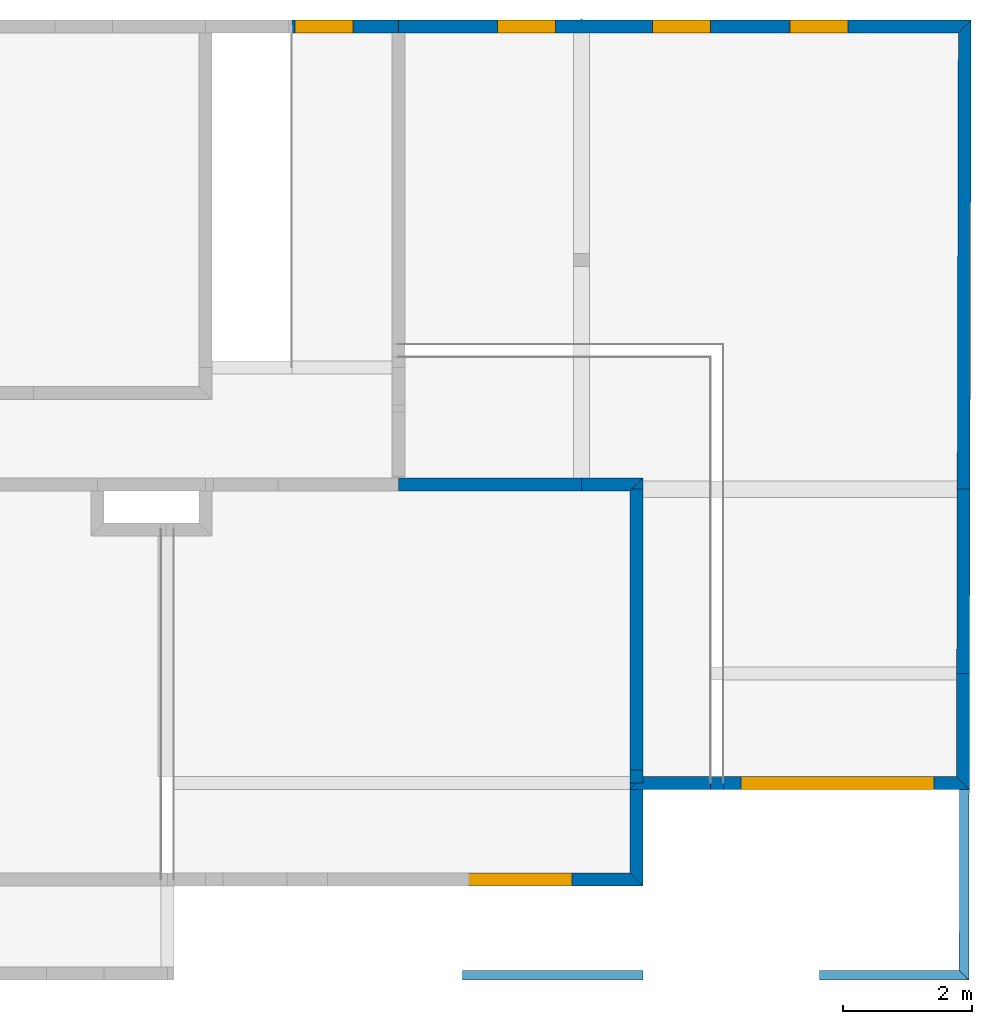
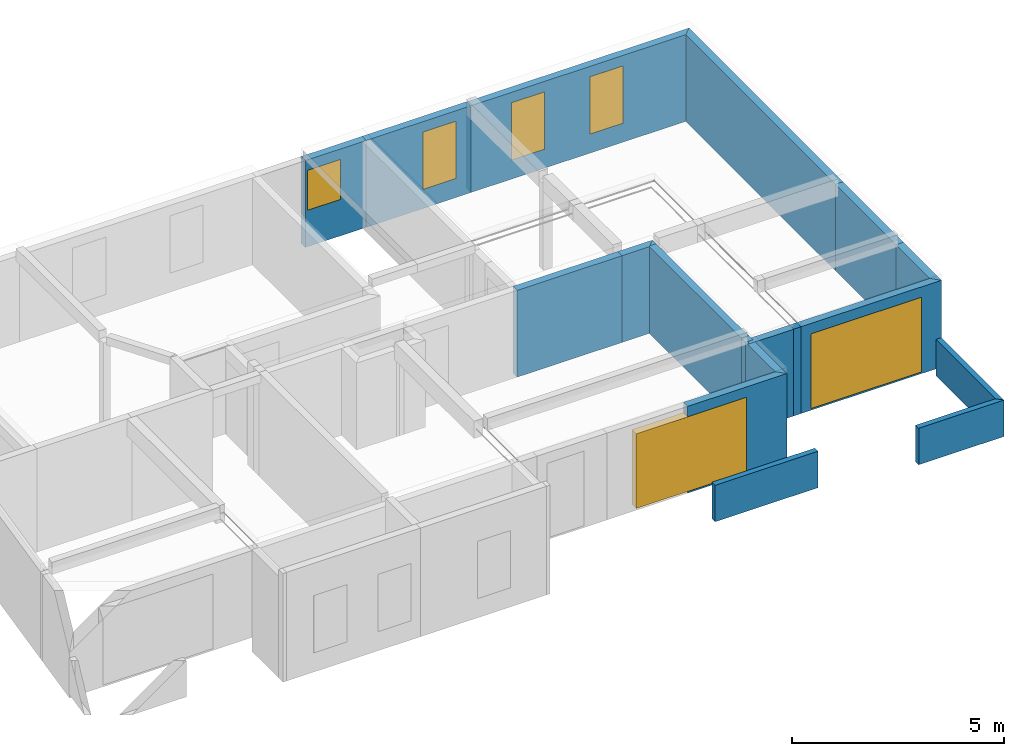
# One storey, part 7 of 8: 20 walls, 6 windows, 6 openings.
"""IFC2X3 building model written with IfcOpenShell, lengths in metres."""

from ifc_helpers import new_model, si_unit, direction, frame, origin_with_axes, origin_2d, place, context, subcontext, project, spatial, polyline, rectangle, outline, extrude, material, layer, layer_set, layer_usage, type_object, element, fill, save


model = new_model("IFC2X3")

# Units and contexts
model_context = context("Model", 3, precision=0.0001, world=origin_with_axes(), true_north=direction((0.0, 1.0)))
plan_context = context("Plan", 2, precision=0.0001, world=origin_with_axes(), true_north=direction((0.0, 1.0)))
body_context = subcontext(model_context, "Body", "Model", "MODEL_VIEW")
ifc_project = project(units=[si_unit("MASSUNIT", "GRAM", prefix="KILO"), si_unit("AREAUNIT", "SQUARE_METRE"), si_unit("LENGTHUNIT", "METRE"), si_unit("VOLUMEUNIT", "CUBIC_METRE")], contexts=[plan_context, model_context])

# Site, building, storey
site_placement = place(None, origin_with_axes())
site = spatial("IfcSite", under=ifc_project, at=site_placement, Name="$", CompositionType="ELEMENT")
building_placement = place(site_placement, origin_with_axes())
building = spatial("IfcBuilding", under=site, at=building_placement, Name="Classeur ENS Ensemble", CompositionType="ELEMENT")
storey_placement = place(building_placement, frame((-20.30778888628, -1.812671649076, 3.3), z_axis=(0.0, 0.0, 1.0), x_axis=(1.0, 0.0, 0.0)))
storey = spatial("IfcBuildingStorey", under=building, at=storey_placement, Name="002 R+1", CompositionType="ELEMENT", Elevation=3.3)

# Wall, opening, window
ifc_material_1 = material(Name="mur BBM 20 cm")
ifc_layer_1 = layer(ifc_material_1, 0.2000000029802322)
ifc_layer_set_1 = layer_set([ifc_layer_1], Name="mur BBM 20 cm+")
ifc_layer_usage_1 = layer_usage(ifc_layer_set_1, "AXIS2", "POSITIVE", -0.1000000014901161)
wall_type = type_object("IfcWallType", PredefinedType="STANDARD")
wall_1_placement = place(storey_placement, frame((34.38339579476, 1.692674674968, 0.0), z_axis=(0.0, 0.0, 1.0), x_axis=(1.0, 0.0, 0.0)))
wall_1 = element("IfcWall", 1, at=wall_1_placement, inside=storey, type_object=wall_type, material=ifc_layer_usage_1, Name="mur BBM 20 cm", context=body_context, shape_type="SweptSolid", held_by="IfcProductRepresentation", body=[
    extrude(outline(polyline([(0.0, 0.1000000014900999), (0.0, 0.1000000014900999), (0.0, 0.1000000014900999), (2.849810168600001, 0.1000000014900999), (2.849810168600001, 0.1000000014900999), (2.849810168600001, 0.1000000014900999), (2.849810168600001, -0.1000000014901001), (2.849810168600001, -0.1000000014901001), (2.849810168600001, -0.1000000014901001), (0.1000000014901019, -0.1000000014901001), (0.1000000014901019, -0.1000000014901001), (0.0, -0.1000000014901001), (0.0, 0.1000000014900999)])), origin_with_axes(), (0.0, 0.0, 1.0), 2.5),
])
opening_1_placement = place(wall_1_placement, frame((1.990655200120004, 0.1000000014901, 0.5500000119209), z_axis=(0.0, 0.0, 1.0), x_axis=(1.0, 0.0, 0.0)))
opening_1 = element("IfcOpeningElement", 2, at=opening_1_placement, cuts=wall_1, Name="BL 90 x 165", context=body_context, shape_type="SweptSolid", held_by="IfcProductRepresentation", body=[
    extrude(rectangle(XDim=0.8999999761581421, YDim=1.649999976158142, at=origin_2d()), frame((0.0, 0.0, 0.824999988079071), z_axis=(0.0, -1.0, 0.0), x_axis=(1.0, 0.0, 0.0)), (0.0, 0.0, 1.0), 0.2000000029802),
])
window_1_placement = place(opening_1_placement, origin_with_axes())
window_1 = element("IfcWindow", 3, at=window_1_placement, inside=storey, Name="BL 90 x 165", OverallHeight=1.649999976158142, OverallWidth=0.8999999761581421, context=body_context, shape_type="SweptSolid", held_by="IfcProductRepresentation", body=[
    extrude(rectangle(XDim=0.8999999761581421, YDim=1.649999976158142, at=origin_2d()), frame((0.0, 0.0, 0.824999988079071), z_axis=(0.0, -1.0, 0.0), x_axis=(1.0, 0.0, 0.0)), (0.0, 0.0, 1.0), 0.2000000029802),
])
fill(opening_1, window_1)

# Walls
ifc_material_2 = material(Name="mur BBM 20 cm")
ifc_layer_2 = layer(ifc_material_2, 0.2000000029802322)
ifc_layer_set_2 = layer_set([ifc_layer_2], Name="mur BBM 20 cm+")
ifc_layer_usage_2 = layer_usage(ifc_layer_set_2, "AXIS2", "POSITIVE", -0.1000000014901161)
wall_2_placement = place(storey_placement, frame((38.08339579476, -11.56732532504, 0.0), z_axis=(0.0, 0.0, 1.0), x_axis=(0.0, 1.0, 0.0)))
element("IfcWall", 4, at=wall_2_placement, inside=storey, type_object=wall_type, material=ifc_layer_usage_2, Name="mur BBM 20 cm", context=body_context, shape_type="SweptSolid", held_by="IfcProductRepresentation", body=[
    extrude(outline(polyline([(0.1000000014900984, 0.1000000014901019), (0.1000000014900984, 0.1000000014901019), (0.1000000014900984, 0.1000000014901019), (1.500000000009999, 0.1000000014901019), (1.500000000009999, 0.1000000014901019), (1.500000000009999, 0.1000000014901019), (1.500000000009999, -0.1000000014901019), (1.399999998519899, -0.1000000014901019), (1.399999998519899, -0.1000000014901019), (-0.1000000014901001, -0.1000000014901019), (-0.1000000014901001, -0.1000000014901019), (-0.1000000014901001, -0.1000000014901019), (0.1000000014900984, 0.1000000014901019)])), origin_with_axes(), (0.0, 0.0, 1.0), 2.5),
])
ifc_material_3 = material(Name="mur BBM 20 cm")
ifc_layer_3 = layer(ifc_material_3, 0.2000000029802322)
ifc_layer_set_3 = layer_set([ifc_layer_3], Name="mur BBM 20 cm+")
ifc_layer_usage_3 = layer_usage(ifc_layer_set_3, "AXIS2", "POSITIVE", -0.1000000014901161)
wall_3_placement = place(storey_placement, frame((43.15894580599, -10.06732532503, 0.0), z_axis=(0.0, 0.0, 1.0), x_axis=(0.002544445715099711, 0.999996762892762, 0.0)))
element("IfcWall", 5, at=wall_3_placement, inside=storey, type_object=wall_type, material=ifc_layer_usage_3, Name="mur BBM 20 cm", context=body_context, shape_type="SweptSolid", held_by="IfcProductRepresentation", body=[
    extrude(outline(polyline([(0.09974587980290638, 0.100000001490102), (0.09974587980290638, 0.100000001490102), (0.09974587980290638, 0.100000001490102), (1.700048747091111, 0.1000000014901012), (1.700048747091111, 0.1000000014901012), (1.700048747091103, 0.1000000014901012), (1.700048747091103, -0.1000000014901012), (1.700048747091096, -0.1000000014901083), (1.700048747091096, -0.1000000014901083), (-0.09974587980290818, -0.1000000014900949), (-0.09974587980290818, -0.1000000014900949), (-0.0997458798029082, -0.1000000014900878), (0.09974587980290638, 0.100000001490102)])), origin_with_axes(), (0.0, 0.0, 1.0), 2.5),
])
ifc_material_4 = material(Name="voile BA 20 cm")
ifc_layer_4 = layer(ifc_material_4, 0.2000000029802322)
ifc_layer_set_4 = layer_set([ifc_layer_4], Name="voile BA 20 cm+")
ifc_layer_usage_4 = layer_usage(ifc_layer_set_4, "AXIS2", "POSITIVE", -0.1000000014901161)
wall_4_placement = place(storey_placement, frame((38.08339579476, -9.867325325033, 0.0), z_axis=(0.0, 0.0, 1.0), x_axis=(0.0, 1.0, 0.0)))
element("IfcWall", 6, at=wall_4_placement, inside=storey, type_object=wall_type, material=ifc_layer_usage_4, Name="voile BA 20 cm", context=body_context, shape_type="SweptSolid", held_by="IfcProductRepresentation", body=[
    extrude(outline(polyline([(0.0, 0.1000000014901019), (0.0, 0.1000000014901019), (0.0, 0.1000000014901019), (4.365000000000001, 0.1000000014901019), (4.365000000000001, 0.1000000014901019), (4.365000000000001, 0.1000000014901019), (4.365000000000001, -0.1000000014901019), (4.365000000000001, -0.1000000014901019), (4.365000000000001, -0.1000000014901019), (0.0, -0.1000000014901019), (0.0, -0.1000000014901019), (0.0, -0.1000000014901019), (0.0, 0.1000000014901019)])), origin_with_axes(), (0.0, 0.0, 1.0), 2.5),
])

# Wall, openings, windows
ifc_material_5 = material(Name="mur BBM 20 cm")
ifc_layer_5 = layer(ifc_material_5, 0.2000000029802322)
ifc_layer_set_5 = layer_set([ifc_layer_5], Name="mur BBM 20 cm+")
ifc_layer_usage_5 = layer_usage(ifc_layer_set_5, "AXIS2", "POSITIVE", -0.1000000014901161)
wall_5_placement = place(storey_placement, frame((37.23339579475, 1.692674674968, 0.0), z_axis=(0.0, 0.0, 1.0), x_axis=(1.0, -1.679277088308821e-13, 0.0)))
wall_5 = element("IfcWall", 7, at=wall_5_placement, inside=storey, type_object=wall_type, material=ifc_layer_usage_5, Name="mur BBM 20 cm", context=body_context, shape_type="SweptSolid", held_by="IfcProductRepresentation", body=[
    extrude(outline(polyline([(-2.581916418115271e-15, 0.1000000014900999), (-1.679277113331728e-14, 0.1000000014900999), (-1.679277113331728e-14, 0.1000000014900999), (6.055727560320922, 0.1000000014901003), (6.055727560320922, 0.1000000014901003), (6.055727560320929, 0.1000000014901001), (5.855218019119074, -0.1000000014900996), (5.855218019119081, -0.1000000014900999), (5.855218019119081, -0.1000000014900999), (1.679277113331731e-14, -0.1000000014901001), (1.679277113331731e-14, -0.1000000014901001), (2.581916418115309e-15, -0.1000000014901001), (-2.581916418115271e-15, 0.1000000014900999)])), origin_with_axes(), (0.0, 0.0, 1.0), 2.5),
])
opening_2_placement = place(wall_5_placement, frame((1.549556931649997, 0.1000000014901, 0.5500000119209), z_axis=(0.0, 0.0, 1.0), x_axis=(1.0, 0.0, 0.0)))
opening_2 = element("IfcOpeningElement", 8, at=opening_2_placement, cuts=wall_5, Name="BL 90 x 165", context=body_context, shape_type="SweptSolid", held_by="IfcProductRepresentation", body=[
    extrude(rectangle(XDim=0.8999999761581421, YDim=1.649999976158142, at=origin_2d()), frame((0.0, 0.0, 0.824999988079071), z_axis=(0.0, -1.0, 0.0), x_axis=(1.0, 0.0, 0.0)), (0.0, 0.0, 1.0), 0.2000000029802),
])
opening_3_placement = place(wall_5_placement, frame((3.690218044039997, 0.1000000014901, 0.5500000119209), z_axis=(0.0, 0.0, 1.0), x_axis=(1.0, 0.0, 0.0)))
opening_3 = element("IfcOpeningElement", 9, at=opening_3_placement, cuts=wall_5, Name="BL 90 x 165", context=body_context, shape_type="SweptSolid", held_by="IfcProductRepresentation", body=[
    extrude(rectangle(XDim=0.8999999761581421, YDim=1.649999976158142, at=origin_2d()), frame((0.0, 0.0, 0.824999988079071), z_axis=(0.0, -1.0, 0.0), x_axis=(1.0, 0.0, 0.0)), (0.0, 0.0, 1.0), 0.2000000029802),
])
window_2_placement = place(opening_2_placement, origin_with_axes())
window_2 = element("IfcWindow", 10, at=window_2_placement, inside=storey, Name="BL 90 x 165", OverallHeight=1.649999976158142, OverallWidth=0.8999999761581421, context=body_context, shape_type="SweptSolid", held_by="IfcProductRepresentation", body=[
    extrude(rectangle(XDim=0.8999999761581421, YDim=1.649999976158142, at=origin_2d()), frame((0.0, 0.0, 0.824999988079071), z_axis=(0.0, -1.0, 0.0), x_axis=(1.0, 0.0, 0.0)), (0.0, 0.0, 1.0), 0.2000000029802),
])
fill(opening_2, window_2)
window_3_placement = place(opening_3_placement, origin_with_axes())
window_3 = element("IfcWindow", 11, at=window_3_placement, inside=storey, Name="BL 90 x 165", OverallHeight=1.649999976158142, OverallWidth=0.8999999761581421, context=body_context, shape_type="SweptSolid", held_by="IfcProductRepresentation", body=[
    extrude(rectangle(XDim=0.8999999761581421, YDim=1.649999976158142, at=origin_2d()), frame((0.0, 0.0, 0.824999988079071), z_axis=(0.0, -1.0, 0.0), x_axis=(1.0, 0.0, 0.0)), (0.0, 0.0, 1.0), 0.2000000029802),
])
fill(opening_3, window_3)

# Walls
ifc_material_6 = material(Name="mur BBM 20 cm")
ifc_layer_6 = layer(ifc_material_6, 0.2000000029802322)
ifc_layer_set_6 = layer_set([ifc_layer_6], Name="mur BBM 20 cm+")
ifc_layer_usage_6 = layer_usage(ifc_layer_set_6, "AXIS2", "POSITIVE", -0.1000000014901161)
wall_6_placement = place(storey_placement, frame((38.08339579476, -10.06732532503, 0.0), z_axis=(0.0, 0.0, 1.0), x_axis=(1.0, 0.0, 0.0)))
element("IfcWall", 12, at=wall_6_placement, inside=storey, type_object=wall_type, material=ifc_layer_usage_6, Name="mur BBM 20 cm", context=body_context, shape_type="SweptSolid", held_by="IfcProductRepresentation", body=[
    extrude(outline(polyline([(0.1000000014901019, 0.1000000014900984), (0.1000000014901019, 0.1000000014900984), (0.1000000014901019, 0.1000000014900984), (1.153090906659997, 0.1000000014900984), (1.153090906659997, 0.1000000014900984), (1.153090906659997, 0.1000000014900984), (1.153090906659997, -0.1000000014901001), (1.153090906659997, -0.1000000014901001), (1.153090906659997, -0.1000000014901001), (0.1000000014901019, -0.1000000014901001), (0.1000000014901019, -0.1000000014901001), (-0.1000000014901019, -0.1000000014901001), (0.1000000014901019, 0.1000000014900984)])), origin_with_axes(), (0.0, 0.0, 1.0), 2.5),
])
ifc_material_7 = material(Name="mur BBM 20 cm")
ifc_layer_7 = layer(ifc_material_7, 0.2000000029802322)
ifc_layer_set_7 = layer_set([ifc_layer_7], Name="mur BBM 20 cm+")
ifc_layer_usage_7 = layer_usage(ifc_layer_set_7, "AXIS2", "POSITIVE", -0.1000000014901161)
wall_7_placement = place(storey_placement, frame((38.08339579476, -10.06732532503, 0.0), z_axis=(0.0, 0.0, 1.0), x_axis=(0.0, 1.0, 0.0)))
element("IfcWall", 13, at=wall_7_placement, inside=storey, type_object=wall_type, material=ifc_layer_usage_7, Name="mur BBM 20 cm", context=body_context, shape_type="SweptSolid", held_by="IfcProductRepresentation", body=[
    extrude(outline(polyline([(0.0, 0.1000000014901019), (0.0, 0.1000000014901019), (0.0, 0.1000000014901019), (0.199999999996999, 0.1000000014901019), (0.199999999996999, 0.1000000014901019), (0.199999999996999, 0.1000000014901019), (0.199999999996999, -0.1000000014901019), (0.199999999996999, -0.1000000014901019), (0.199999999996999, -0.1000000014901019), (0.1000000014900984, -0.1000000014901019), (0.1000000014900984, -0.1000000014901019), (0.0, -0.1000000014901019), (0.0, 0.1000000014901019)])), origin_with_axes(), (0.0, 0.0, 1.0), 2.5),
])
ifc_material_8 = material(Name="mur BBM 15 cm allégés")
ifc_layer_8 = layer(ifc_material_8, 0.1500000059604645)
ifc_layer_set_8 = layer_set([ifc_layer_8], Name="mur BBM 15 cm allégés+")
ifc_layer_usage_8 = layer_usage(ifc_layer_set_8, "AXIS2", "POSITIVE", -0.07500000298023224)
wall_8_placement = place(storey_placement, frame((35.38339579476, -13.05732532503, 0.1000000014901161), z_axis=(0.0, 0.0, 1.0), x_axis=(1.0, 0.0, 0.0)))
element("IfcWall", 14, at=wall_8_placement, inside=storey, type_object=wall_type, material=ifc_layer_usage_8, Name="mur BBM 15 cm allégés", context=body_context, shape_type="SweptSolid", held_by="IfcProductRepresentation", body=[
    extrude(outline(polyline([(0.0, 0.07500000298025), (0.0, 0.07500000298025), (0.0, 0.07500000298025), (2.800000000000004, 0.07500000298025), (2.800000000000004, 0.07500000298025), (2.800000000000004, 0.07500000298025), (2.800000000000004, -0.07500000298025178), (2.800000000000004, -0.07500000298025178), (2.800000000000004, -0.07500000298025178), (0.0, -0.07500000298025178), (0.0, -0.07500000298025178), (0.0, -0.07500000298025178), (0.0, 0.07500000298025)])), origin_with_axes(), (0.0, 0.0, 1.0), 1.049999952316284),
])
ifc_material_9 = material(Name="mur BBM 15 cm allégés")
ifc_layer_9 = layer(ifc_material_9, 0.1500000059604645)
ifc_layer_set_9 = layer_set([ifc_layer_9], Name="mur BBM 15 cm allégés+")
ifc_layer_usage_9 = layer_usage(ifc_layer_set_9, "AXIS2", "POSITIVE", -0.07500000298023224)
wall_9_placement = place(storey_placement, frame((40.92951868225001, -13.05732532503, -0.2000000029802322), z_axis=(0.0, 0.0, 1.0), x_axis=(1.0, 0.0, 0.0)))
element("IfcWall", 15, at=wall_9_placement, inside=storey, type_object=wall_type, material=ifc_layer_usage_9, Name="mur BBM 15 cm allégés", context=body_context, shape_type="SweptSolid", held_by="IfcProductRepresentation", body=[
    extrude(outline(polyline([(0.0, 0.07500000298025), (0.0, 0.07500000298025), (0.0, 0.07500000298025), (2.172065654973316, 0.07500000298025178), (2.172065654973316, 0.07500000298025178), (2.172065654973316, 0.07500000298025), (2.321685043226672, -0.07500000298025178), (2.321685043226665, -0.07500000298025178), (2.321685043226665, -0.07500000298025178), (0.0, -0.07500000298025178), (0.0, -0.07500000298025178), (0.0, -0.07500000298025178), (0.0, 0.07500000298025)])), origin_with_axes(), (0.0, 0.0, 1.0), 1.049999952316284),
])
ifc_material_10 = material(Name="mur BBM 15 cm allégés")
ifc_layer_10 = layer(ifc_material_10, 0.1500000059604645)
ifc_layer_set_10 = layer_set([ifc_layer_10], Name="mur BBM 15 cm allégés+")
ifc_layer_usage_10 = layer_usage(ifc_layer_set_10, "AXIS2", "POSITIVE", -0.07500000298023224)
wall_10_placement = place(storey_placement, frame((43.17639403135, -13.05732532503, -0.2000000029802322), z_axis=(0.0, 0.0, 1.0), x_axis=(0.002540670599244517, 0.9999967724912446, 0.0)))
element("IfcWall", 16, at=wall_10_placement, inside=storey, type_object=wall_type, material=ifc_layer_usage_10, Name="mur BBM 15 cm allégés", context=body_context, shape_type="SweptSolid", held_by="IfcProductRepresentation", body=[
    extrude(outline(polyline([(0.07480969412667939, 0.07500000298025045), (0.07480969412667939, 0.07500000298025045), (0.07480969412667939, 0.07500000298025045), (2.890009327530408, 0.07500000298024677), (2.890009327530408, 0.07500000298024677), (2.890009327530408, 0.07500000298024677), (2.890009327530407, -0.07500000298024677), (2.890009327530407, -0.07500000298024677), (2.890009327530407, -0.07500000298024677), (-0.07480969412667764, -0.07500000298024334), (-0.07480969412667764, -0.07500000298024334), (-0.07480969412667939, -0.07500000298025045), (0.07480969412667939, 0.07500000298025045)])), origin_with_axes(), (0.0, 0.0, 1.0), 1.049999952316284),
])

# Wall, opening, window
ifc_material_11 = material(Name="mur BBM 20 cm")
ifc_layer_11 = layer(ifc_material_11, 0.2000000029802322)
ifc_layer_set_11 = layer_set([ifc_layer_11], Name="mur BBM 20 cm+")
ifc_layer_usage_11 = layer_usage(ifc_layer_set_11, "AXIS2", "POSITIVE", -0.1000000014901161)
wall_11_placement = place(storey_placement, frame((35.48339579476, -11.56732532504, 0.0), z_axis=(0.0, 0.0, 1.0), x_axis=(1.0, 0.0, 0.0)))
wall_11 = element("IfcWall", 17, at=wall_11_placement, inside=storey, type_object=wall_type, material=ifc_layer_usage_11, Name="mur BBM 20 cm", context=body_context, shape_type="SweptSolid", held_by="IfcProductRepresentation", body=[
    extrude(outline(polyline([(0.0, 0.1000000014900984), (0.0, 0.1000000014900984), (0.0, 0.1000000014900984), (2.4999999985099, 0.1000000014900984), (2.4999999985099, 0.1000000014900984), (2.4999999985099, 0.1000000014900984), (2.700000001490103, -0.1000000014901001), (2.700000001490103, -0.1000000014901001), (2.700000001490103, -0.1000000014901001), (0.0, -0.1000000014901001), (0.0, -0.1000000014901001), (0.0, -0.1000000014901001), (0.0, 0.1000000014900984)])), origin_with_axes(), (0.0, 0.0, 1.0), 2.5),
])
opening_4_placement = place(wall_11_placement, frame((0.09746158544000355, 0.1000000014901, 0.05000000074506), z_axis=(0.0, 0.0, 1.0), x_axis=(1.0, 0.0, 0.0)))
opening_4 = element("IfcOpeningElement", 18, at=opening_4_placement, cuts=wall_11, Name="BL 300 x 215", context=body_context, shape_type="SweptSolid", held_by="IfcProductRepresentation", body=[
    extrude(rectangle(XDim=3.0, YDim=2.150000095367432, at=origin_2d()), frame((0.0, 0.0, 1.075000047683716), z_axis=(0.0, -1.0, 0.0), x_axis=(1.0, 0.0, 0.0)), (0.0, 0.0, 1.0), 0.2000000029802),
])
window_4_placement = place(opening_4_placement, origin_with_axes())
window_4 = element("IfcWindow", 19, at=window_4_placement, inside=storey, Name="BL 300 x 215", OverallHeight=2.150000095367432, OverallWidth=3.0, context=body_context, shape_type="SweptSolid", held_by="IfcProductRepresentation", body=[
    extrude(rectangle(XDim=3.0, YDim=2.150000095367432, at=origin_2d()), frame((0.0, 0.0, 1.075000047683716), z_axis=(0.0, -1.0, 0.0), x_axis=(1.0, 0.0, 0.0)), (0.0, 0.0, 1.0), 0.2000000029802),
])
fill(opening_4, window_4)

# Walls
ifc_material_12 = material(Name="voile BA 20 cm")
ifc_layer_12 = layer(ifc_material_12, 0.2000000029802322)
ifc_layer_set_12 = layer_set([ifc_layer_12], Name="voile BA 20 cm+")
ifc_layer_usage_12 = layer_usage(ifc_layer_set_12, "AXIS2", "POSITIVE", -0.1000000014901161)
wall_12_placement = place(storey_placement, frame((34.38339579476, -5.427325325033, 0.0), z_axis=(0.0, 0.0, 1.0), x_axis=(0.9999999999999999, 0.0, 0.0)))
element("IfcWall", 20, at=wall_12_placement, inside=storey, type_object=wall_type, material=ifc_layer_usage_12, Name="voile BA 20 cm", context=body_context, shape_type="SweptSolid", held_by="IfcProductRepresentation", body=[
    extrude(outline(polyline([(0.0, 0.1000000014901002), (0.1000000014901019, 0.1000000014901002), (0.1000000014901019, 0.1000000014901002), (2.849823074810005, 0.1000000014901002), (2.849823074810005, 0.1000000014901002), (2.849823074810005, 0.1000000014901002), (2.849823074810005, -0.1000000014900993), (2.849823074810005, -0.1000000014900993), (2.849823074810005, -0.1000000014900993), (0.0, -0.1000000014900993), (0.0, -0.1000000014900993), (0.0, -0.1000000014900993), (0.0, 0.1000000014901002)])), origin_with_axes(), (0.0, 0.0, 1.0), 2.5),
])
ifc_material_13 = material(Name="mur BBM 20 cm")
ifc_layer_13 = layer(ifc_material_13, 0.2000000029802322)
ifc_layer_set_13 = layer_set([ifc_layer_13], Name="mur BBM 20 cm+")
ifc_layer_usage_13 = layer_usage(ifc_layer_set_13, "AXIS2", "POSITIVE", -0.1000000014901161)
wall_13_placement = place(storey_placement, frame((43.16327148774, -8.367282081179, 0.0), z_axis=(0.0, 0.0, 1.0), x_axis=(0.002544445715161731, 0.999996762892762, 0.0)))
element("IfcWall", 21, at=wall_13_placement, inside=storey, type_object=wall_type, material=ifc_layer_usage_13, Name="mur BBM 20 cm", context=body_context, shape_type="SweptSolid", held_by="IfcProductRepresentation", body=[
    extrude(outline(polyline([(4.445771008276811e-16, 0.1000000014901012), (-8.419155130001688e-15, 0.1000000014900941), (-8.419155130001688e-15, 0.1000000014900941), (2.864966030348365, 0.1000000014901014), (2.864966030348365, 0.1000000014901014), (2.864966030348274, 0.1000000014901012), (2.864966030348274, -0.1000000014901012), (2.864966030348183, -0.1000000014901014), (2.864966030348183, -0.1000000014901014), (6.660850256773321e-15, -0.1000000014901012), (6.660850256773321e-15, -0.1000000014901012), (-4.445771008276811e-16, -0.1000000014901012), (4.445771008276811e-16, 0.1000000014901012)])), origin_with_axes(), (0.0, 0.0, 1.0), 2.5),
])

# Wall, opening, window
ifc_material_14 = material(Name="mur BBM 20 cm")
ifc_layer_14 = layer(ifc_material_14, 0.2000000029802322)
ifc_layer_set_14 = layer_set([ifc_layer_14], Name="mur BBM 20 cm+")
ifc_layer_usage_14 = layer_usage(ifc_layer_set_14, "AXIS2", "POSITIVE", -0.1000000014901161)
wall_14_placement = place(storey_placement, frame((39.43648670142, -10.06732532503, 0.0), z_axis=(0.0, 0.0, 1.0), x_axis=(0.9999999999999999, 0.0, 0.0)))
wall_14 = element("IfcWall", 22, at=wall_14_placement, inside=storey, type_object=wall_type, material=ifc_layer_usage_14, Name="mur BBM 20 cm", context=body_context, shape_type="SweptSolid", held_by="IfcProductRepresentation", body=[
    extrude(outline(polyline([(0.0, 0.1000000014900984), (0.0, 0.1000000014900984), (0.0, 0.1000000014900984), (3.622713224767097, 0.1000000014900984), (3.622713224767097, 0.1000000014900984), (3.62271322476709, 0.1000000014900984), (3.822204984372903, -0.1000000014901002), (3.822204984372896, -0.1000000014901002), (3.822204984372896, -0.1000000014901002), (0.0, -0.1000000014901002), (0.0, -0.1000000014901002), (0.0, -0.1000000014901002), (0.0, 0.1000000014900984)])), origin_with_axes(), (0.0, 0.0, 1.0), 2.5),
])
opening_5_placement = place(wall_14_placement, frame((1.77605945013, 0.1000000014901, 0.05000000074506), z_axis=(0.0, 0.0, 1.0), x_axis=(1.0, 0.0, 0.0)))
opening_5 = element("IfcOpeningElement", 23, at=opening_5_placement, cuts=wall_14, Name="BL 300 x 215", context=body_context, shape_type="SweptSolid", held_by="IfcProductRepresentation", body=[
    extrude(rectangle(XDim=3.0, YDim=2.150000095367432, at=origin_2d()), frame((0.0, 0.0, 1.075000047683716), z_axis=(0.0, -1.0, 0.0), x_axis=(1.0, 0.0, 0.0)), (0.0, 0.0, 1.0), 0.2000000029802),
])
window_5_placement = place(opening_5_placement, origin_with_axes())
window_5 = element("IfcWindow", 24, at=window_5_placement, inside=storey, Name="BL 300 x 215", OverallHeight=2.150000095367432, OverallWidth=3.0, context=body_context, shape_type="SweptSolid", held_by="IfcProductRepresentation", body=[
    extrude(rectangle(XDim=3.0, YDim=2.150000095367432, at=origin_2d()), frame((0.0, 0.0, 1.075000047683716), z_axis=(0.0, -1.0, 0.0), x_axis=(1.0, 0.0, 0.0)), (0.0, 0.0, 1.0), 0.2000000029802),
])
fill(opening_5, window_5)

# Walls
ifc_material_15 = material(Name="mur BBM 20 cm")
ifc_layer_15 = layer(ifc_material_15, 0.2000000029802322)
ifc_layer_set_15 = layer_set([ifc_layer_15], Name="mur BBM 20 cm+")
ifc_layer_usage_15 = layer_usage(ifc_layer_set_15, "AXIS2", "POSITIVE", -0.1000000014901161)
wall_15_placement = place(storey_placement, frame((39.23648670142, -10.06732532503, 0.0), z_axis=(0.0, 0.0, 1.0), x_axis=(1.0, 0.0, 0.0)))
element("IfcWall", 25, at=wall_15_placement, inside=storey, type_object=wall_type, material=ifc_layer_usage_15, Name="mur BBM 20 cm", context=body_context, shape_type="SweptSolid", held_by="IfcProductRepresentation", body=[
    extrude(outline(polyline([(0.0, 0.1000000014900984), (0.0, 0.1000000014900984), (0.0, 0.1000000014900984), (0.2000000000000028, 0.1000000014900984), (0.2000000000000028, 0.1000000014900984), (0.2000000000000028, 0.1000000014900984), (0.2000000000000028, -0.1000000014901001), (0.2000000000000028, -0.1000000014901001), (0.2000000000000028, -0.1000000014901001), (0.0, -0.1000000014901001), (0.0, -0.1000000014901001), (0.0, -0.1000000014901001), (0.0, 0.1000000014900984)])), origin_with_axes(), (0.0, 0.0, 1.0), 2.5),
])
ifc_material_16 = material(Name="voile BA 20 cm")
ifc_layer_16 = layer(ifc_material_16, 0.2000000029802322)
ifc_layer_set_16 = layer_set([ifc_layer_16], Name="voile BA 20 cm+")
ifc_layer_usage_16 = layer_usage(ifc_layer_set_16, "AXIS2", "POSITIVE", -0.1000000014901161)
wall_16_placement = place(storey_placement, frame((37.23321886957, -5.427325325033, 0.0), z_axis=(0.0, 0.0, 1.0), x_axis=(1.0, 0.0, 0.0)))
element("IfcWall", 26, at=wall_16_placement, inside=storey, type_object=wall_type, material=ifc_layer_usage_16, Name="voile BA 20 cm", context=body_context, shape_type="SweptSolid", held_by="IfcProductRepresentation", body=[
    extrude(outline(polyline([(0.0, 0.1000000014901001), (0.0, 0.1000000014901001), (0.0, 0.1000000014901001), (0.9501769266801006, 0.1000000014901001), (0.9501769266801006, 0.1000000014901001), (0.9501769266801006, 0.1000000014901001), (0.7501769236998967, -0.1000000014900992), (0.7501769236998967, -0.1000000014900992), (0.7501769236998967, -0.1000000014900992), (0.0, -0.1000000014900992), (0.0, -0.1000000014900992), (0.0, -0.1000000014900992), (0.0, 0.1000000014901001)])), origin_with_axes(), (0.0, 0.0, 1.0), 2.5),
])
ifc_material_17 = material(Name="mur BBM 20 cm")
ifc_layer_17 = layer(ifc_material_17, 0.2000000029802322)
ifc_layer_set_17 = layer_set([ifc_layer_17], Name="mur BBM 20 cm+")
ifc_layer_usage_17 = layer_usage(ifc_layer_set_17, "AXIS2", "POSITIVE", -0.1000000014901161)
wall_17_placement = place(storey_placement, frame((37.23320596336, 1.692674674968, 0.0), z_axis=(0.0, 0.0, 1.0), x_axis=(1.0, 0.0, 0.0)))
element("IfcWall", 27, at=wall_17_placement, inside=storey, type_object=wall_type, material=ifc_layer_usage_17, Name="mur BBM 20 cm", context=body_context, shape_type="SweptSolid", held_by="IfcProductRepresentation", body=[
    extrude(outline(polyline([(0.0, 0.1000000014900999), (0.0, 0.1000000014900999), (0.0, 0.1000000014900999), (0.0001898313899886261, 0.1000000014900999), (0.0001898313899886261, 0.1000000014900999), (0.000189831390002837, 0.1000000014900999), (0.000189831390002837, -0.1000000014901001), (0.0001898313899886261, -0.1000000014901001), (0.0001898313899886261, -0.1000000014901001), (0.0, -0.1000000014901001), (0.0, -0.1000000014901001), (0.0, -0.1000000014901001), (0.0, 0.1000000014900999)])), origin_with_axes(), (0.0, 0.0, 1.0), 2.5),
])
ifc_material_18 = material(Name="voile BA 20 cm")
ifc_layer_18 = layer(ifc_material_18, 0.2000000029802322)
ifc_layer_set_18 = layer_set([ifc_layer_18], Name="voile BA 20 cm+")
ifc_layer_usage_18 = layer_usage(ifc_layer_set_18, "AXIS2", "POSITIVE", -0.1000000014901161)
wall_18_placement = place(storey_placement, frame((38.08339579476, -5.502325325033, 0.0), z_axis=(0.0, 0.0, 1.0), x_axis=(0.0, 1.0, 0.0)))
element("IfcWall", 28, at=wall_18_placement, inside=storey, type_object=wall_type, material=ifc_layer_usage_18, Name="voile BA 20 cm", context=body_context, shape_type="SweptSolid", held_by="IfcProductRepresentation", body=[
    extrude(outline(polyline([(0.0, 0.1000000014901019), (0.0, 0.1000000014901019), (0.0, 0.1000000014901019), (-0.02500000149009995, 0.1000000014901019), (-0.02500000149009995, 0.1000000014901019), (-0.02500000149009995, 0.1000000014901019), (0.1750000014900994, -0.1000000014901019), (0.1750000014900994, -0.1000000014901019), (0.1750000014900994, -0.1000000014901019), (0.0, -0.1000000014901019), (0.0, -0.1000000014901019), (0.0, -0.1000000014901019), (0.0, 0.1000000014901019)])), origin_with_axes(), (0.0, 0.0, 1.0), 2.5),
])
ifc_material_19 = material(Name="mur BBM 20 cm")
ifc_layer_19 = layer(ifc_material_19, 0.2000000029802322)
ifc_layer_set_19 = layer_set([ifc_layer_19], Name="mur BBM 20 cm+")
ifc_layer_usage_19 = layer_usage(ifc_layer_set_19, "AXIS2", "POSITIVE", -0.1000000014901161)
wall_19_placement = place(storey_placement, frame((43.17056123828, -5.502325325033, 0.0), z_axis=(0.0, 0.0, 1.0), x_axis=(0.002544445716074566, 0.9999967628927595, 0.0)))
element("IfcWall", 29, at=wall_19_placement, inside=storey, type_object=wall_type, material=ifc_layer_usage_19, Name="mur BBM 20 cm", context=body_context, shape_type="SweptSolid", held_by="IfcProductRepresentation", body=[
    extrude(outline(polyline([(-2.454091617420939e-16, 0.1000000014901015), (-8.9951104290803e-14, 0.1000000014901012), (-8.9951104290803e-14, 0.1000000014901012), (7.094768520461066, 0.100000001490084), (7.094768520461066, 0.100000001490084), (7.094768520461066, 0.1000000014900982), (7.295278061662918, -0.1000000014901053), (7.295278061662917, -0.1000000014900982), (7.295278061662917, -0.1000000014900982), (9.172746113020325e-14, -0.1000000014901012), (9.172746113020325e-14, -0.1000000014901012), (-6.427692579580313e-16, -0.1000000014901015), (-2.454091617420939e-16, 0.1000000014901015)])), origin_with_axes(), (0.0, 0.0, 1.0), 2.5),
])

# Wall, opening, window
ifc_material_20 = material(Name="mur BBM 20 cm")
ifc_layer_20 = layer(ifc_material_20, 0.2000000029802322)
ifc_layer_set_20 = layer_set([ifc_layer_20], Name="mur BBM 20 cm+")
ifc_layer_usage_20 = layer_usage(ifc_layer_set_20, "AXIS2", "POSITIVE", -0.1000000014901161)
wall_20_placement = place(storey_placement, frame((32.72596906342, 1.692674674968, 0.0), z_axis=(0.0, 0.0, 1.0), x_axis=(1.0, 0.0, 0.0)))
wall_20 = element("IfcWall", 30, at=wall_20_placement, inside=storey, type_object=wall_type, material=ifc_layer_usage_20, Name="mur BBM 20 cm", context=body_context, shape_type="SweptSolid", held_by="IfcProductRepresentation", body=[
    extrude(outline(polyline([(0.0, 0.1000000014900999), (0.0, 0.1000000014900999), (0.0, 0.1000000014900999), (1.657426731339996, 0.1000000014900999), (1.657426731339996, 0.1000000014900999), (1.657426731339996, 0.1000000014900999), (1.657426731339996, -0.1000000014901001), (1.557426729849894, -0.1000000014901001), (1.557426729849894, -0.1000000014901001), (0.0, -0.1000000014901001), (0.0, -0.1000000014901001), (0.0, -0.1000000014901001), (0.0, 0.1000000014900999)])), origin_with_axes(), (0.0, 0.0, 1.0), 2.5),
])
opening_6_placement = place(wall_20_placement, frame((0.5010928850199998, 0.1000000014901, 1.049999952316), z_axis=(0.0, 0.0, 1.0), x_axis=(1.0, 0.0, 0.0)))
opening_6 = element("IfcOpeningElement", 31, at=opening_6_placement, cuts=wall_20, Name="BL 90 x 115", context=body_context, shape_type="SweptSolid", held_by="IfcProductRepresentation", body=[
    extrude(rectangle(XDim=0.8999999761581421, YDim=1.149999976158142, at=origin_2d()), frame((0.0, 0.0, 0.574999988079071), z_axis=(0.0, -1.0, 0.0), x_axis=(1.0, 0.0, 0.0)), (0.0, 0.0, 1.0), 0.2000000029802),
])
window_6_placement = place(opening_6_placement, origin_with_axes())
window_6 = element("IfcWindow", 32, at=window_6_placement, inside=storey, Name="BL 90 x 115", OverallHeight=1.149999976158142, OverallWidth=0.8999999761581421, context=body_context, shape_type="SweptSolid", held_by="IfcProductRepresentation", body=[
    extrude(rectangle(XDim=0.8999999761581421, YDim=1.149999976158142, at=origin_2d()), frame((0.0, 0.0, 0.574999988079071), z_axis=(0.0, -1.0, 0.0), x_axis=(1.0, 0.0, 0.0)), (0.0, 0.0, 1.0), 0.2000000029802),
])
fill(opening_6, window_6)

save(model, "model.ifc")
